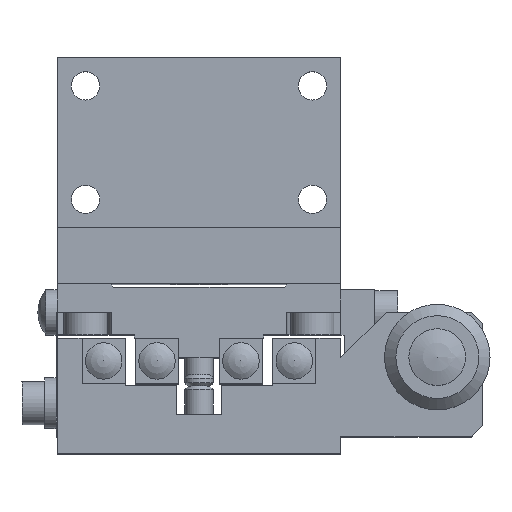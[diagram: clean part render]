
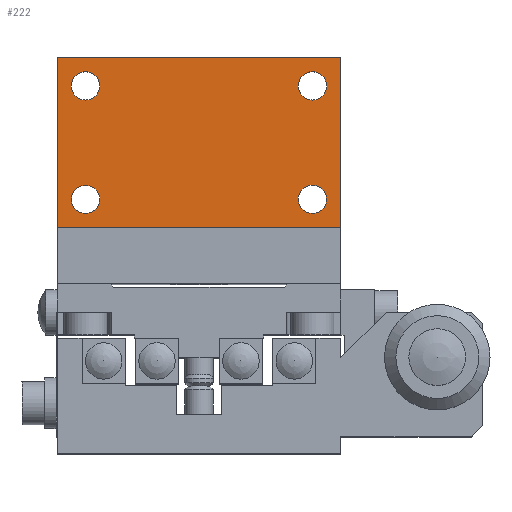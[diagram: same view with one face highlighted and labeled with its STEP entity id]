
A CAD part, top view. The second image highlights one B-rep face of the part: STEP entity #222.
In plain terms, the highlighted planar face has unit normal (0, 0, 1).
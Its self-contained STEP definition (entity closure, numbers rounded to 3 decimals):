
#222 = ADVANCED_FACE( '', ( #471, #472, #473, #474, #475 ), #476, .T. );
#471 = FACE_BOUND( '', #1084, .T. );
#472 = FACE_BOUND( '', #1085, .T. );
#473 = FACE_BOUND( '', #1086, .T. );
#474 = FACE_BOUND( '', #1087, .T. );
#475 = FACE_OUTER_BOUND( '', #1088, .T. );
#476 = PLANE( '', #1089 );
#1084 = EDGE_LOOP( '', ( #1715 ) );
#1085 = EDGE_LOOP( '', ( #1716 ) );
#1086 = EDGE_LOOP( '', ( #1717 ) );
#1087 = EDGE_LOOP( '', ( #1718 ) );
#1088 = EDGE_LOOP( '', ( #1719, #1720, #1721, #1722 ) );
#1089 = AXIS2_PLACEMENT_3D( '', #1723, #1724, #1725 );
#1715 = ORIENTED_EDGE( '', *, *, #3423, .T. );
#1716 = ORIENTED_EDGE( '', *, *, #3424, .T. );
#1717 = ORIENTED_EDGE( '', *, *, #3425, .T. );
#1718 = ORIENTED_EDGE( '', *, *, #3426, .T. );
#1719 = ORIENTED_EDGE( '', *, *, #3427, .F. );
#1720 = ORIENTED_EDGE( '', *, *, #3411, .F. );
#1721 = ORIENTED_EDGE( '', *, *, #3428, .F. );
#1722 = ORIENTED_EDGE( '', *, *, #3420, .F. );
#1723 = CARTESIAN_POINT( '', ( 128.906, -5., 5. ) );
#1724 = DIRECTION( '', ( 0., 0., 1. ) );
#1725 = DIRECTION( '', ( 0., 1., 0. ) );
#3411 = EDGE_CURVE( '', #3922, #3925, #3926, .T. );
#3420 = EDGE_CURVE( '', #3940, #3943, #3944, .T. );
#3423 = EDGE_CURVE( '', #3948, #3948, #3949, .T. );
#3424 = EDGE_CURVE( '', #3950, #3950, #3951, .T. );
#3425 = EDGE_CURVE( '', #3952, #3952, #3953, .T. );
#3426 = EDGE_CURVE( '', #3954, #3954, #3955, .T. );
#3427 = EDGE_CURVE( '', #3925, #3940, #3956, .T. );
#3428 = EDGE_CURVE( '', #3943, #3922, #3957, .T. );
#3922 = VERTEX_POINT( '', #4775 );
#3925 = VERTEX_POINT( '', #4779 );
#3926 = LINE( '', #4780, #4781 );
#3940 = VERTEX_POINT( '', #4797 );
#3943 = VERTEX_POINT( '', #4801 );
#3944 = LINE( '', #4802, #4803 );
#3948 = VERTEX_POINT( '', #4809 );
#3949 = CIRCLE( '', #4810, 1.25 );
#3950 = VERTEX_POINT( '', #4811 );
#3951 = CIRCLE( '', #4812, 1.25 );
#3952 = VERTEX_POINT( '', #4813 );
#3953 = CIRCLE( '', #4814, 1.25 );
#3954 = VERTEX_POINT( '', #4815 );
#3955 = CIRCLE( '', #4816, 1.25 );
#3956 = LINE( '', #4817, #4818 );
#3957 = LINE( '', #4819, #4820 );
#4775 = CARTESIAN_POINT( '', ( -12.5, 10., 5. ) );
#4779 = CARTESIAN_POINT( '', ( 12.5, 10., 5. ) );
#4780 = CARTESIAN_POINT( '', ( 0., 10., 5. ) );
#4781 = VECTOR( '', #6040, 1000. );
#4797 = CARTESIAN_POINT( '', ( 12.5, -5., 5. ) );
#4801 = CARTESIAN_POINT( '', ( -12.5, -5., 5. ) );
#4802 = CARTESIAN_POINT( '', ( 128.906, -5., 5. ) );
#4803 = VECTOR( '', #6059, 1000. );
#4809 = CARTESIAN_POINT( '', ( 8.75, 7.5, 5. ) );
#4810 = AXIS2_PLACEMENT_3D( '', #6062, #6063, #6064 );
#4811 = CARTESIAN_POINT( '', ( 8.75, -2.5, 5. ) );
#4812 = AXIS2_PLACEMENT_3D( '', #6065, #6066, #6067 );
#4813 = CARTESIAN_POINT( '', ( -11.25, -2.5, 5. ) );
#4814 = AXIS2_PLACEMENT_3D( '', #6068, #6069, #6070 );
#4815 = CARTESIAN_POINT( '', ( -11.25, 7.5, 5. ) );
#4816 = AXIS2_PLACEMENT_3D( '', #6071, #6072, #6073 );
#4817 = CARTESIAN_POINT( '', ( 12.5, -10., 5. ) );
#4818 = VECTOR( '', #6074, 1000. );
#4819 = CARTESIAN_POINT( '', ( -12.5, -10., 5. ) );
#4820 = VECTOR( '', #6075, 1000. );
#6040 = DIRECTION( '', ( 1., 0., 0. ) );
#6059 = DIRECTION( '', ( -1., 0., 0. ) );
#6062 = CARTESIAN_POINT( '', ( 10., 7.5, 5. ) );
#6063 = DIRECTION( '', ( 0., 0., -1. ) );
#6064 = DIRECTION( '', ( -1., 0., 0. ) );
#6065 = CARTESIAN_POINT( '', ( 10., -2.5, 5. ) );
#6066 = DIRECTION( '', ( 0., 0., -1. ) );
#6067 = DIRECTION( '', ( -1., 0., 0. ) );
#6068 = CARTESIAN_POINT( '', ( -10., -2.5, 5. ) );
#6069 = DIRECTION( '', ( 0., 0., -1. ) );
#6070 = DIRECTION( '', ( -1., 0., 0. ) );
#6071 = CARTESIAN_POINT( '', ( -10., 7.5, 5. ) );
#6072 = DIRECTION( '', ( 0., 0., -1. ) );
#6073 = DIRECTION( '', ( -1., 0., 0. ) );
#6074 = DIRECTION( '', ( 0., -1., 0. ) );
#6075 = DIRECTION( '', ( 0., 1., 0. ) );
